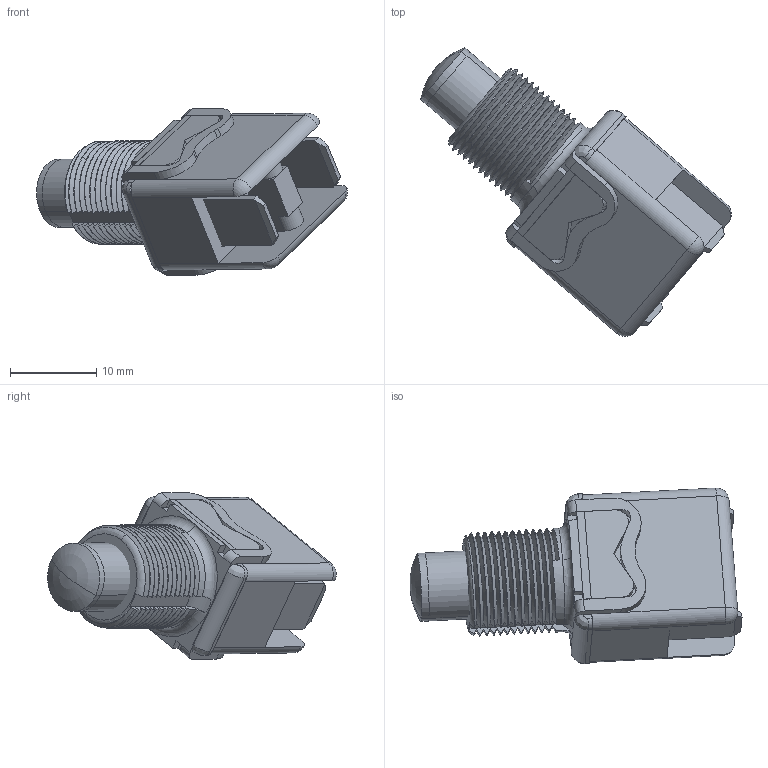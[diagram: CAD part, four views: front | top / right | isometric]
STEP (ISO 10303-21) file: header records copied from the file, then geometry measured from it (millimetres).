
FILE_DESCRIPTION((''),'2;1');
FILE_NAME('1213C','2014-12-17T',('brevel'),(''),'PRO/ENGINEER BY PARAMETRIC TECHNOLOGY CORPORATION, 2013410','PRO/ENGINEER BY PARAMETRIC TECHNOLOGY CORPORATION, 2013410','');
FILE_SCHEMA(('CONFIG_CONTROL_DESIGN'));
Length unit declared in the file: millimetre
Products named in the file (1): 1213C
Bounding box: 35.98 x 33.43 x 19.3 mm (x, y, z)
Surface area: 3866.9 mm2 (no closed solid volume)
Topology: 0 solids, 6 shells, 192 faces, 671 edges, 474 vertices
Faces by surface type: plane 92, cylinder 53, bspline 36, sphere 6, torus 5
Entity records: 12431 total; most frequent: CARTESIAN_POINT 7003, ORIENTED_EDGE 1200, DIRECTION 940, EDGE_CURVE 667, VERTEX_POINT 474, VECTOR 390, LINE 390, AXIS2_PLACEMENT_3D 275
